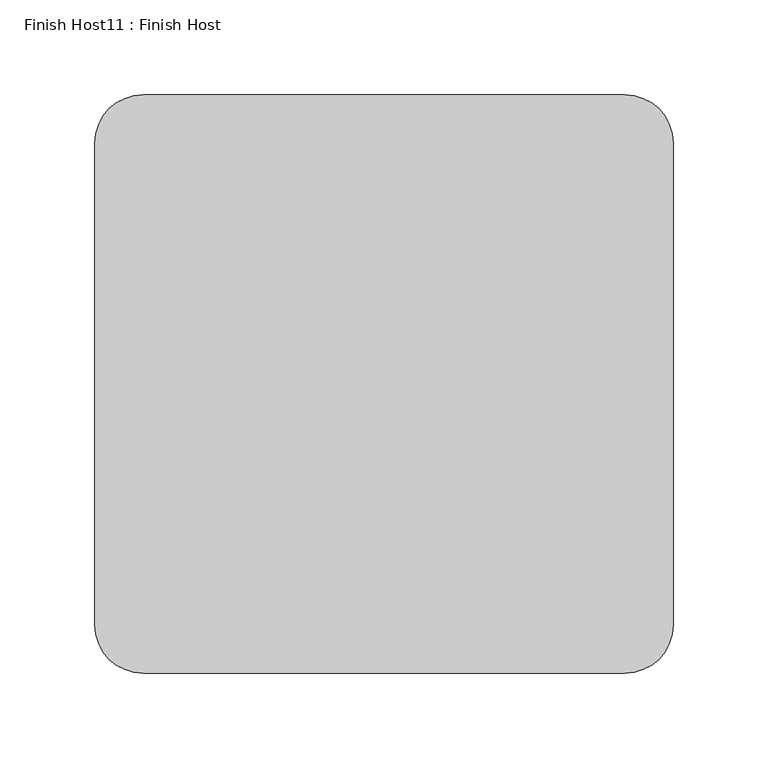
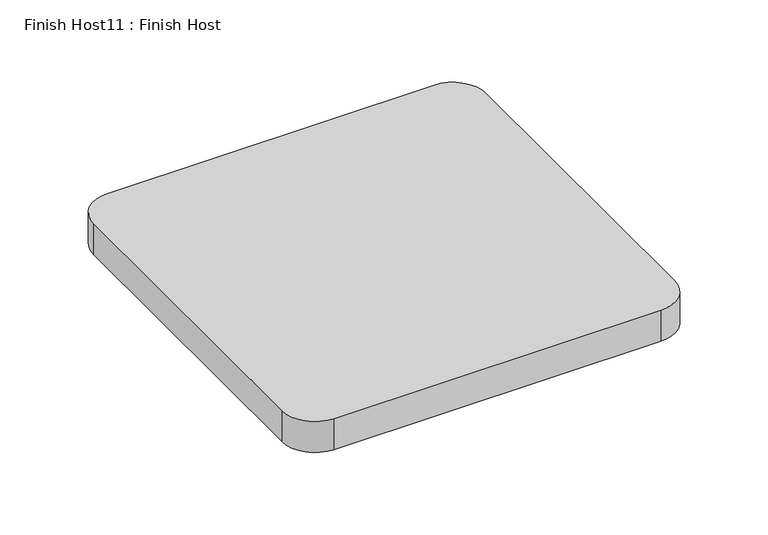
"""IFC4 building model written with IfcOpenShell, lengths in millimetres: proxy geometry, Finish Host11 : Finish Host."""

from ifc_helpers import new_model, si_unit, point, frame_2d, origin, origin_with_axes, place, context, project, spatial, polyline, circle_curve, trimmed, segment, composite_curve, outline, extrude, source, transform, mapped, element, save


def finish_host11_finish_host_3af49a93(model_context):
    return source(origin(), model_context, "Body", "SweptSolid", [
        extrude(outline(composite_curve([segment(polyline([(1190.1649374, 2023.3667263), (1190.1649374, 2277.3667263)]), True, "CONTINUOUS"), segment(trimmed(circle_curve(frame_2d((1215.5649374, 2277.3667263)), 25.4), [point((1190.1649374, 2277.3667263))], [point((1215.5649374, 2302.7667263))], False, "CARTESIAN"), True, "CONTINUOUS"), segment(polyline([(1215.5649374, 2302.7667263), (1469.5649374, 2302.7667263)]), True, "CONTINUOUS"), segment(trimmed(circle_curve(frame_2d((1469.5649374, 2277.3667263)), 25.4), [point((1469.5649374, 2302.7667263))], [point((1494.9649374, 2277.3667263))], False, "CARTESIAN"), True, "CONTINUOUS"), segment(polyline([(1494.9649374, 2277.3667263), (1494.9649374, 2023.3667263)]), True, "CONTINUOUS"), segment(trimmed(circle_curve(frame_2d((1469.5649374, 2023.3667263)), 25.4), [point((1494.9649374, 2023.3667263))], [point((1469.5649374, 1997.9667263))], False, "CARTESIAN"), True, "CONTINUOUS"), segment(polyline([(1469.5649374, 1997.9667263), (1215.5649374, 1997.9667263)]), True, "CONTINUOUS"), segment(trimmed(circle_curve(frame_2d((1215.5649374, 2023.3667263)), 25.4), [point((1215.5649374, 1997.9667263))], [point((1190.1649374, 2023.3667263))], False, "CARTESIAN"), True, "CONTINUOUS")], self_intersect=False)), origin_with_axes(), (0.0, 0.0, 1.0), 25.4),
    ])


if __name__ == "__main__":
    model = new_model("IFC4")
    model_context = context("Model", 3, world=origin())
    ifc_project = project(units=[si_unit("LENGTHUNIT", "METRE", prefix="MILLI")], contexts=[model_context])
    site = spatial("IfcSite", under=ifc_project)
    building = spatial("IfcBuilding", under=site)
    placement = place(None, origin())
    finish_host11_finish_host_shape = finish_host11_finish_host_3af49a93(model_context)
    element("IfcBuildingElementProxy", 1, Name="Finish Host11 : Finish Host", ObjectType="Finish Host11 : Finish Host", at=placement, inside=building, context=model_context, shape_type="MappedRepresentation", body=[
        mapped(finish_host11_finish_host_shape, transform((0.0, 0.0, 0.0), x_axis=(1.0, 0.0, 0.0), y_axis=(0.0, 1.0, 0.0), z_axis=(0.0, 0.0, 1.0))),
    ])
    save(model, "model.ifc")
